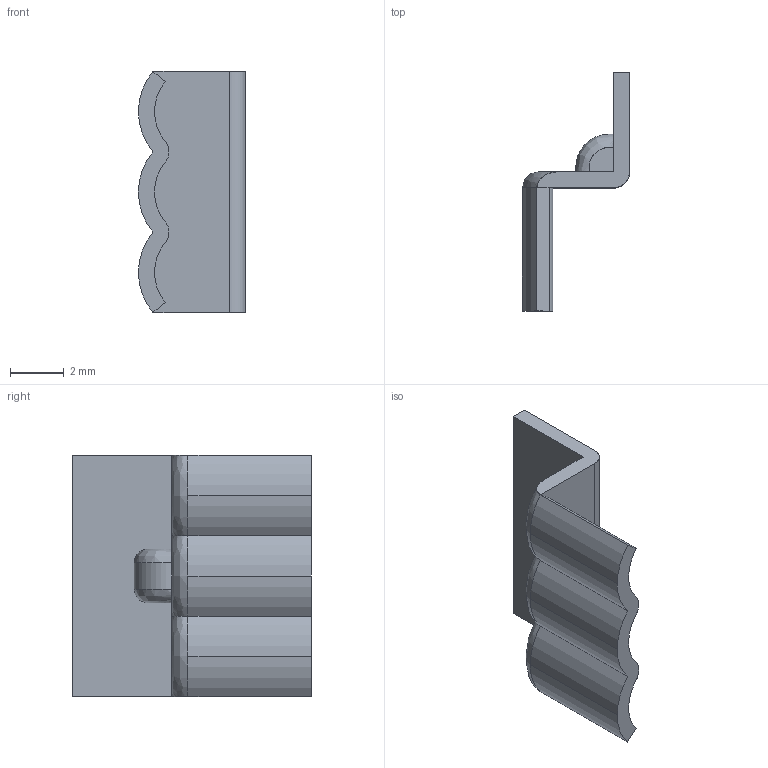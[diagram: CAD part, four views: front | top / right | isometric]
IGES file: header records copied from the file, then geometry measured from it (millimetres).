
Start section: SolidWorks IGES FILE using analytic representation for surfaces
Global section: file name: C:\Documents and Settings\lecoutey\Bureau\GP 69\69.060.00.IGS; native system: SolidWorks 2004 by SolidWorks Corporation; preprocessor: Version 5.3; author: lecoutey; date: 050329.145838; units: millimetre
Bounding box: 4 x 8.9 x 9 mm (x, y, z)
Surface area: 243.2 mm2 (no closed solid volume)
Topology: 0 solids, 0 shells, 33 faces, 325 edges, 325 vertices
Faces by surface type: bspline 17, revolution 16
